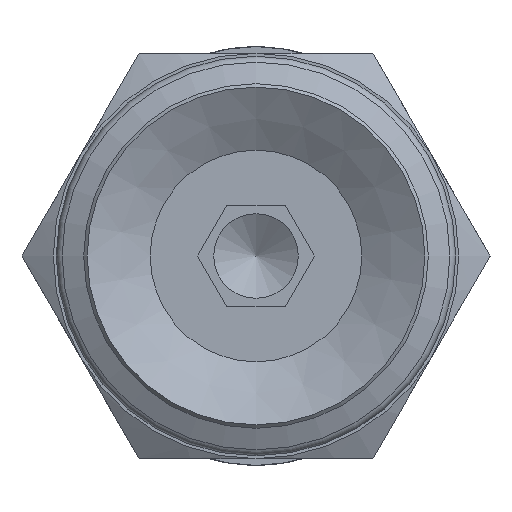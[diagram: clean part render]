
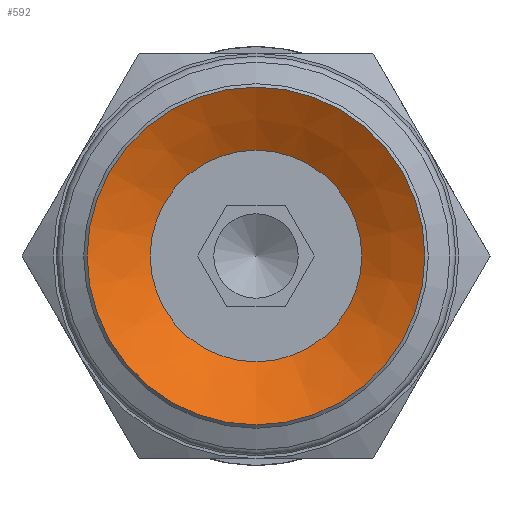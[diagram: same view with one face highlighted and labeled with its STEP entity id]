
A CAD part, front view. The second image highlights one B-rep face of the part: STEP entity #592.
In plain terms, the highlighted conical face has half-angle 60 degrees and reference radius 3.133 mm.
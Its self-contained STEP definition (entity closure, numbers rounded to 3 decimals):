
#592=ADVANCED_FACE('',(#852,#853),#854,.F.);
#852=FACE_BOUND('',#1225,.T.);
#853=FACE_OUTER_BOUND('',#1226,.T.);
#854=CONICAL_SURFACE('',#1227,3.133,1.047);
#1225=EDGE_LOOP('',(#2144));
#1226=EDGE_LOOP('',(#2145));
#1227=AXIS2_PLACEMENT_3D('',#2146,#2147,#2148);
#2144=ORIENTED_EDGE('',*,*,#2695,.F.);
#2145=ORIENTED_EDGE('',*,*,#2696,.T.);
#2146=CARTESIAN_POINT('',(0.0,7.659,0.));
#2147=DIRECTION('',(-0.0,-1.0,0.));
#2148=DIRECTION('',(0.0,0.,-1.0));
#2695=EDGE_CURVE('',#3037,#3037,#3038,.T.);
#2696=EDGE_CURVE('',#3039,#3039,#3040,.T.);
#3037=VERTEX_POINT('',#3989);
#3038=CIRCLE('',#3990,3.133);
#3039=VERTEX_POINT('',#3991);
#3040=CIRCLE('',#3992,5.0);
#3989=CARTESIAN_POINT('',(0.0,7.659,-3.133));
#3990=AXIS2_PLACEMENT_3D('',#4696,#4697,#4698);
#3991=CARTESIAN_POINT('',(0.0,6.581,-5.0));
#3992=AXIS2_PLACEMENT_3D('',#4699,#4700,#4701);
#4696=CARTESIAN_POINT('',(0.0,7.659,0.));
#4697=DIRECTION('',(0.0,-1.0,0.));
#4698=DIRECTION('',(0.0,0.,-1.0));
#4699=CARTESIAN_POINT('',(0.0,6.581,0.0));
#4700=DIRECTION('',(0.0,-1.0,0.));
#4701=DIRECTION('',(0.0,0.,-1.0));
